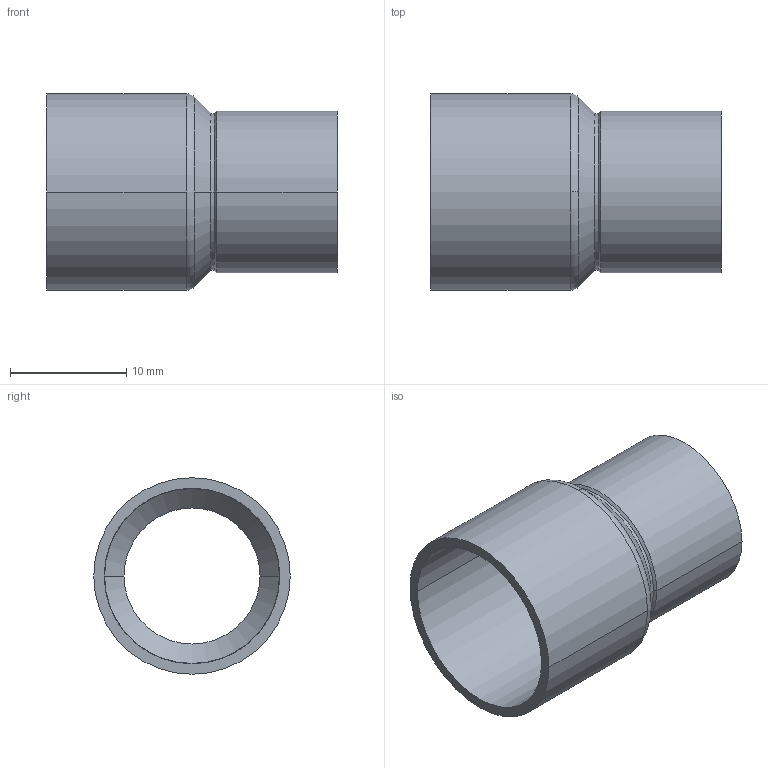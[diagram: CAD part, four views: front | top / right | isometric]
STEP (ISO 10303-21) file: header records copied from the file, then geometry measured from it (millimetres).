
FILE_DESCRIPTION((''),'2;1');
FILE_NAME('G:\Technics\CAD\Bauteile\Serie 15240\152401512.stp','2005-10-21T12:51:02',('boden'),(''),'Autodesk Inventor 8','Autodesk Inventor 8','');
FILE_SCHEMA(('AUTOMOTIVE_DESIGN { 1 0 10303 214 1 1 1 1 }'));
Length unit declared in the file: millimetre
Products named in the file (1): 152401512
Bounding box: 25 x 16.91 x 16.91 mm (x, y, z)
Volume: 1059.1 mm3; surface area: 2435.4 mm2
Topology: 1 solids, 1 shells, 26 faces, 60 edges, 36 vertices
Faces by surface type: cylinder 12, cone 8, torus 2, bspline 2, plane 2
Entity records: 855 total; most frequent: CARTESIAN_POINT 211, DIRECTION 150, ORIENTED_EDGE 120, AXIS2_PLACEMENT_3D 65, EDGE_CURVE 60, CIRCLE 40, VERTEX_POINT 36, EDGE_LOOP 28
